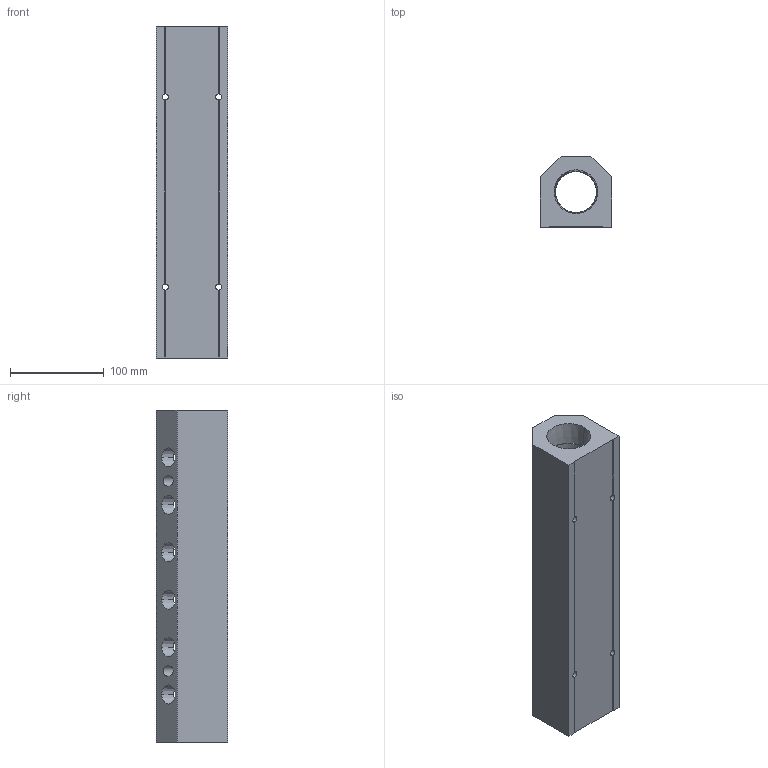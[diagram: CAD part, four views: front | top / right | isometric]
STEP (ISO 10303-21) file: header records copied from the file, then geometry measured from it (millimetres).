
FILE_DESCRIPTION (( 'STEP AP214' ), '1' );
FILE_NAME ('ALM6BCD-N8N24-355B.step', '2022-02-07T09:29:20', ( '' ), ( '' ), 'SwSTEP 2.0', 'SolidWorks 2020', '' );
FILE_SCHEMA (( 'AUTOMOTIVE_DESIGN' ));
Length unit declared in the file: millimetre
Products named in the file (1): ALM6BCD-N8N24-355B
Bounding box: 76.2 x 76.2 x 355 mm (x, y, z)
Volume: 1225138.9 mm3; surface area: 169441.7 mm2
Topology: 1 solids, 1 shells, 362 faces, 1000 edges, 664 vertices
Faces by surface type: plane 207, bspline 97, cone 40, cylinder 18
Entity records: 22353 total; most frequent: CARTESIAN_POINT 10352, ORIENTED_EDGE 2000, DIRECTION 1322, EDGE_CURVE 1000, VERTEX_POINT 664, LINE 646, VECTOR 646, EDGE_LOOP 432
